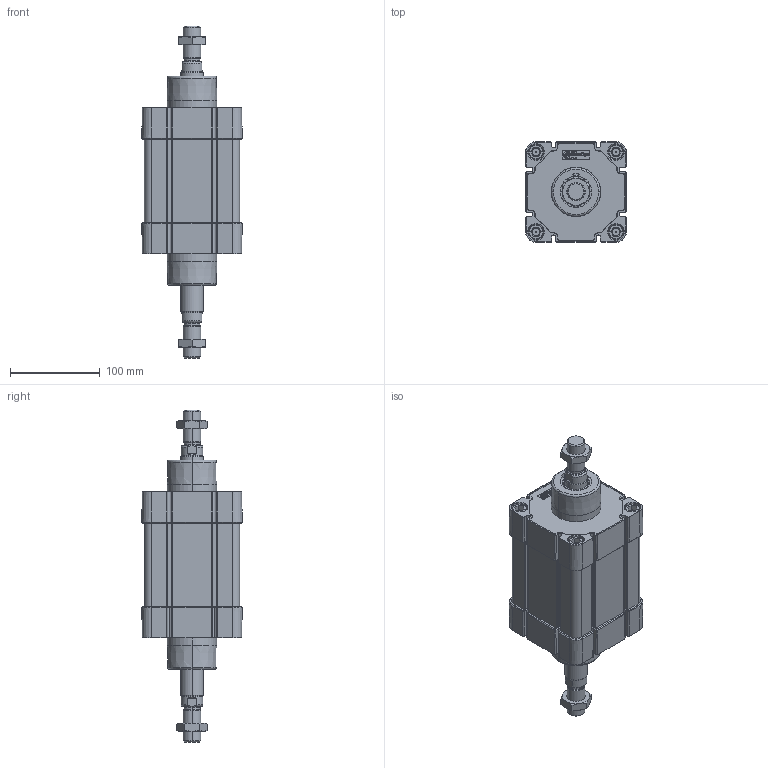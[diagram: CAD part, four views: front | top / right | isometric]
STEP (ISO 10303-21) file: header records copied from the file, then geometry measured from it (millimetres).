
FILE_DESCRIPTION (( 'STEP AP214' ), '1' );
FILE_NAME ('N11M41000025.STEP', '2021-09-28T13:39:53', ( '' ), ( '' ), 'SwSTEP 2.0', 'SolidWorks 2016', '' );
FILE_SCHEMA (( 'AUTOMOTIVE_DESIGN' ));
Length unit declared in the file: millimetre
Products named in the file (7): 21.753.0; Pistone Ø100 ISO 15552; 000.515.7_000.515.0025; TA Ø100 ISO 15552 WEB; N11M41000025; 21.F03.0000_21.F03.0025; 21.F01.0000_21.F01.0025
Assembly tree (8 placements, depth 2):
  N11M41000025
    TA Ø100 ISO 15552 WEB  x2
    Pistone Ø100 ISO 15552
    21.753.0  x2
    21.F01.0000_21.F01.0025
    000.515.7_000.515.0025
    21.F03.0000_21.F03.0025
Bounding box: 111.9 x 111.95 x 370 mm (x, y, z)
Volume: 1500179.4 mm3; surface area: 434291.3 mm2
Topology: 20 solids, 22 shells, 2239 faces, 5706 edges, 3571 vertices
Faces by surface type: plane 887, cylinder 678, cone 416, torus 112, bspline 108, sphere 38
Entity records: 50974 total; most frequent: CARTESIAN_POINT 9669, ORIENTED_EDGE 6398, DIRECTION 6376, EDGE_CURVE 3199, AXIS2_PLACEMENT_3D 2340, VERTEX_POINT 2023, LINE 1696, VECTOR 1696
